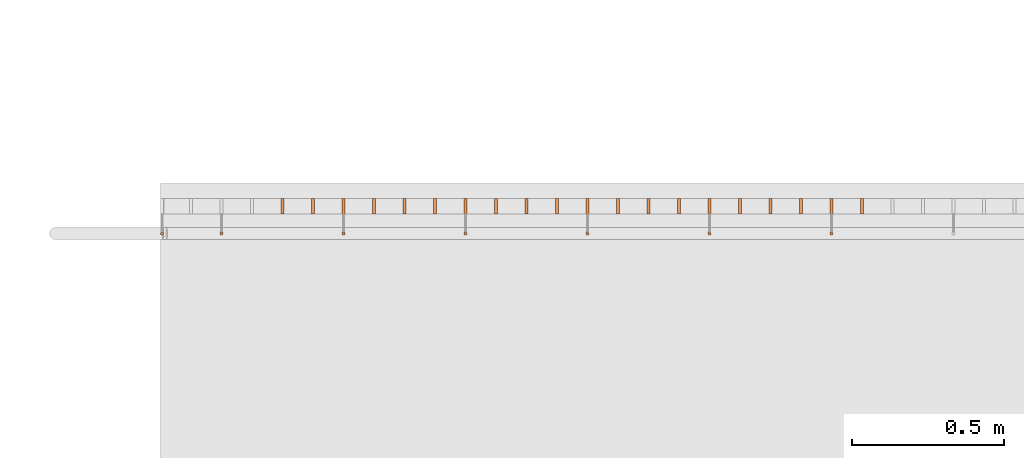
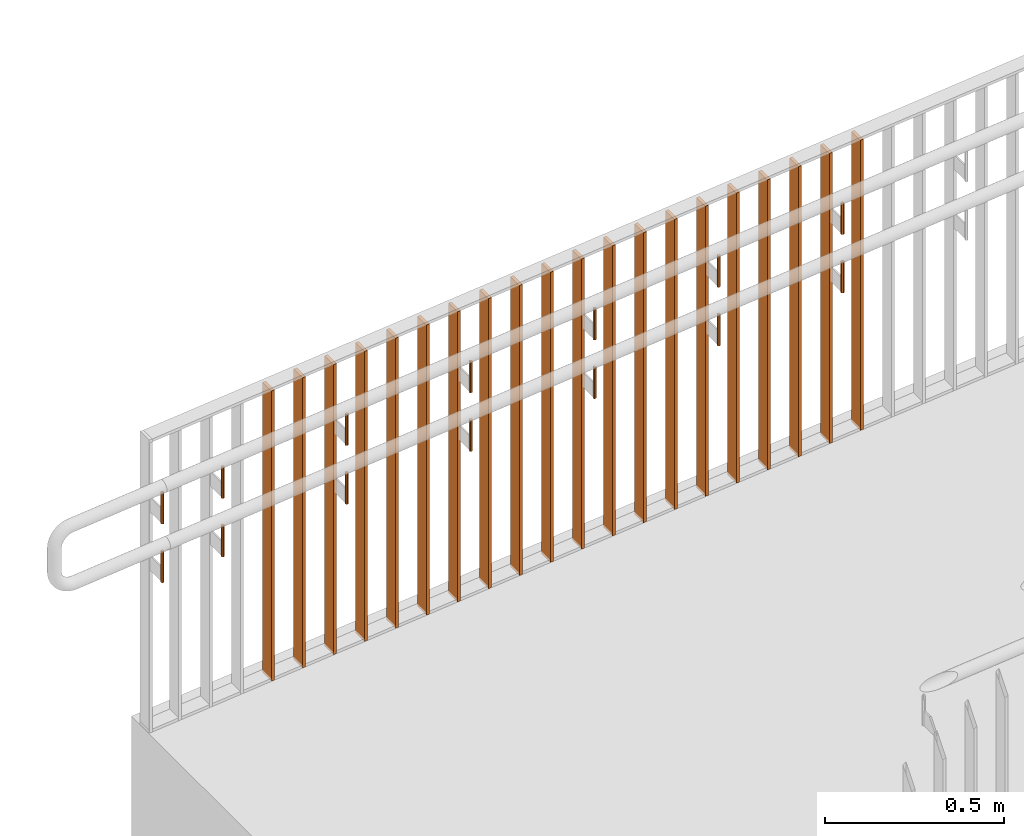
# One storey, part 371 of 418: 34 proxies, 1 element without a shape of its own.
"""IFC2X3 building model written with IfcOpenShell, lengths in millimetres."""

from ifc_helpers import new_model, entity, si_unit, converted_unit, derived_unit, money_unit, direction, frame, origin_with_axes, origin_2d_with_axis, place, context, subcontext, project, spatial, circle, extrude, faceted_brep, source, transform, mapped, material, type_object, element, aggregate, save


model = new_model("IFC2X3")

# Units and contexts
model_context = context("Model", 3, precision=0.01, world=origin_with_axes(), true_north=direction((0.0, 1.0)))
body_context = subcontext(model_context, "Body", "Model", "MODEL_VIEW")
ifc_project = project(units=[si_unit("LENGTHUNIT", "METRE", prefix="MILLI"), si_unit("AREAUNIT", "SQUARE_METRE"), si_unit("VOLUMEUNIT", "CUBIC_METRE"), converted_unit("PLANEANGLEUNIT", "DEGREE", entity("IfcPlaneAngleMeasure", 0.0174532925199), si_unit("PLANEANGLEUNIT", "RADIAN"), dimensions=[0, 0, 0, 0, 0, 0, 0]), si_unit("SOLIDANGLEUNIT", "STERADIAN"), money_unit("EUR"), converted_unit("TIMEUNIT", "Year", entity("IfcTimeMeasure", 31556926.0), si_unit("TIMEUNIT", "SECOND"), dimensions=[0, 0, 1, 0, 0, 0, 0]), si_unit("MASSUNIT", "GRAM", prefix="KILO"), si_unit("THERMODYNAMICTEMPERATUREUNIT", "DEGREE_CELSIUS"), si_unit("LUMINOUSINTENSITYUNIT", "LUMEN"), si_unit("ENERGYUNIT", "JOULE", prefix="MEGA"), derived_unit("THERMALCONDUCTANCEUNIT", [(si_unit("POWERUNIT", "WATT"), 1), (si_unit("LENGTHUNIT", "METRE"), -1), (si_unit("THERMODYNAMICTEMPERATUREUNIT", "KELVIN"), -1)]), derived_unit("SPECIFICHEATCAPACITYUNIT", [(si_unit("ENERGYUNIT", "JOULE"), 1), (si_unit("MASSUNIT", "GRAM", prefix="KILO"), -1), (si_unit("THERMODYNAMICTEMPERATUREUNIT", "KELVIN"), -1)]), derived_unit("MASSDENSITYUNIT", [(si_unit("MASSUNIT", "GRAM", prefix="KILO"), 1), (si_unit("VOLUMEUNIT", "CUBIC_METRE"), -1)])], contexts=[model_context])

# Site, building, storey
site_placement = place(None, origin_with_axes())
site = spatial("IfcSite", under=ifc_project, at=site_placement, Name="Paldiski mnt 245/1, Tallinn, Harjumaa", CompositionType="COMPLEX")
building_placement = place(site_placement, origin_with_axes())
building = spatial("IfcBuilding", under=site, at=building_placement, Name="RKAS Hoone üldnimetus (kasutust iseloomustav) -> IFC Project Manager -> SOLIBRI", CompositionType="ELEMENT")
storey_placement = place(building_placement, origin_with_axes())
storey = spatial("IfcBuildingStorey", under=building, at=storey_placement, Name="Esimene korrus", CompositionType="ELEMENT", Elevation=0.0)

# Proxies
ifc_material_1 = material(Name="ET-07_Teras - Roostevaba")
building_element_proxy_type_1 = type_object("IfcBuildingElementProxyType", Name="ET-07_Teras - Roostevaba D10", PredefinedType="NOTDEFINED")
for number, where, z_axis, x_axis, name in (
    (1, (-59323.3901807, 38424.7311931, -56.0616365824), (0.0, 0.0, 1.0), (0.0, 1.0, 0.0), "POST"),
    (2, (-59323.3901807, 38424.7311931, 143.938412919), (0.0, 0.0, 1.0), (0.0, 1.0, 0.0), "POST"),
    (3, (-58923.3901807, 38424.7311931, 183.938412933), (0.0, 0.0, 1.0), (0.0, 1.0, 0.0), "POST"),
    (4, (-57723.3394775, 38424.7311931, 103.943433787), (0.0, 0.0, 1.0), (0.0, 1.0, 0.0), "POST"),
    (5, (-57723.3394775, 38424.7311931, 303.943483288), (0.0, 0.0, 1.0), (0.0, 1.0, 0.0), "POST"),
    (6, (-58123.3901807, 38424.7311931, 263.938412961), (0.0, 0.0, 1.0), (0.0, 1.0, 0.0), "POST"),
    (7, (-58523.3394775, 38424.7311931, 23.9434337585), (0.0, 0.0, 1.0), (0.0, 1.0, 0.0), "POST"),
    (8, (-58123.3901807, 38424.7311931, 63.9383634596), (0.0, 0.0, 1.0), (0.0, 1.0, 0.0), "POST"),
    (9, (-58523.3394775, 38424.7311931, 223.94348326), (0.0, 0.0, 1.0), (0.0, 1.0, 0.0), "POST"),
    (10, (-58923.3901807, 38424.7311931, -16.0616365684), (0.0, 0.0, 1.0), (0.0, 1.0, 0.0), "POST"),
    (11, (-59723.4408838, 38424.7311931, -96.0667069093), (0.0, 0.0, 1.0), (0.0, 1.0, 0.0), "POST"),
    (12, (-59918.288767, 38424.7311931, 84.4485542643), (0.0, 0.0, 1.0), (0.0, 1.0, 0.0), "POST"),
    (13, (-59918.288767, 38424.7311931, -115.551495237), (0.0, 0.0, 1.0), (0.0, 1.0, 0.0), "POST"),
    (14, (-59723.4408838, 38424.7311931, 103.933342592), (0.0, 0.0, 1.0), (0.0, 1.0, 0.0), "POST"),
):
    element("IfcBuildingElementProxy", number, at=place(storey_placement, frame(where, z_axis=z_axis, x_axis=x_axis)), inside=storey, type_object=building_element_proxy_type_1, material=ifc_material_1, Name=name, context=body_context, shape_type="SweptSolid", body=[
        extrude(circle(Radius=5.0, at=origin_2d_with_axis()), frame((0.0, 0.0, 0.0), z_axis=(0.0, 0.0, -1.0), x_axis=(-1.0, 0.0, 0.0)), (0.0, 0.0, -1.0), 106.0),
    ])

# Railing, proxies
railing_type = type_object("IfcRailingType", Name="Railing Type", PredefinedType="NOTDEFINED")
railing_placement = place(storey_placement, frame((-53022.826789, 38539.7311919, -669.703891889), z_axis=(0.0, 0.0, 1.0), x_axis=(-0.773149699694, -0.634223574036, 0.0)))
railing = element("IfcRailing", 15, at=railing_placement, inside=storey, type_object=railing_type, Name="Trepipiire", PredefinedType="NOTDEFINED")
ifc_material_2 = material(Name="RAL7016")
building_element_proxy_type_2 = type_object("IfcBuildingElementProxyType", Name="IfcBuildingElementProxy", PredefinedType="NOTDEFINED")
shared_shape = source(origin_with_axes(), body_context, "Body", "Brep", [
    faceted_brep([(25.0, 5.0, -0.500145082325), (-25.0, 5.0, -0.500145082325), (-25.0, 5.0, 989.499867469), (25.0, 5.0, 989.499867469), (25.0, -5.0, 0.500145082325), (-25.0, -5.0, 0.500145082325), (-25.0, -5.0, 990.500157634), (25.0, -5.0, 990.500157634)], [[[0, 1, 2, 3]], [[0, 4, 5, 1]], [[1, 5, 6, 2]], [[3, 2, 6, 7]], [[4, 0, 3, 7]], [[5, 4, 7, 6]]]),
])
proxy_1_placement = place(railing_placement, frame((3572.70139098, -2898.39270107, 229.41848285), z_axis=(0.0, 0.0, 1.0), x_axis=(-0.773149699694, 0.634223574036, 0.0)))
proxy_1 = element("IfcBuildingElementProxy", 16, at=proxy_1_placement, type_object=building_element_proxy_type_2, material=ifc_material_2, Name="BALUSTER - 001", context=body_context, shape_type="MappedRepresentation", body=[
    mapped(shared_shape, transform((0.0, 0.0, 0.0), x_axis=(0.0, 1.0, 0.0), y_axis=(-1.0, 0.0, 0.0), z_axis=(0.0, 0.0, 1.0))),
])
proxy_2_placement = place(railing_placement, frame((3650.01636095, -2961.81505848, 219.415581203), z_axis=(0.0, 0.0, 1.0), x_axis=(-0.773149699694, 0.634223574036, 0.0)))
proxy_2 = element("IfcBuildingElementProxy", 17, at=proxy_2_placement, type_object=building_element_proxy_type_2, material=ifc_material_2, Name="BALUSTER - 001", context=body_context, shape_type="MappedRepresentation", body=[
    mapped(shared_shape, transform((0.0, 0.0, 0.0), x_axis=(0.0, 1.0, 0.0), y_axis=(-1.0, 0.0, 0.0), z_axis=(0.0, 0.0, 1.0))),
])
proxy_3_placement = place(railing_placement, frame((3727.33133092, -3025.23741588, 209.412679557), z_axis=(0.0, 0.0, 1.0), x_axis=(-0.773149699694, 0.634223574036, 0.0)))
proxy_3 = element("IfcBuildingElementProxy", 18, at=proxy_3_placement, type_object=building_element_proxy_type_2, material=ifc_material_2, Name="BALUSTER - 001", context=body_context, shape_type="MappedRepresentation", body=[
    mapped(shared_shape, transform((0.0, 0.0, 0.0), x_axis=(0.0, 1.0, 0.0), y_axis=(-1.0, 0.0, 0.0), z_axis=(0.0, 0.0, 1.0))),
])
proxy_4_placement = place(railing_placement, frame((3804.64630089, -3088.65977328, 199.40977791), z_axis=(0.0, 0.0, 1.0), x_axis=(-0.773149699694, 0.634223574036, 0.0)))
proxy_4 = element("IfcBuildingElementProxy", 19, at=proxy_4_placement, type_object=building_element_proxy_type_2, material=ifc_material_2, Name="BALUSTER - 001", context=body_context, shape_type="MappedRepresentation", body=[
    mapped(shared_shape, transform((0.0, 0.0, 0.0), x_axis=(0.0, 1.0, 0.0), y_axis=(-1.0, 0.0, 0.0), z_axis=(0.0, 0.0, 1.0))),
])
proxy_5_placement = place(railing_placement, frame((3881.96127086, -3152.08213069, 189.406876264), z_axis=(0.0, 0.0, 1.0), x_axis=(-0.773149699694, 0.634223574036, 0.0)))
proxy_5 = element("IfcBuildingElementProxy", 20, at=proxy_5_placement, type_object=building_element_proxy_type_2, material=ifc_material_2, Name="BALUSTER - 001", context=body_context, shape_type="MappedRepresentation", body=[
    mapped(shared_shape, transform((0.0, 0.0, 0.0), x_axis=(0.0, 1.0, 0.0), y_axis=(-1.0, 0.0, 0.0), z_axis=(0.0, 0.0, 1.0))),
])
proxy_6_placement = place(railing_placement, frame((3959.27624083, -3215.50448809, 179.403974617), z_axis=(0.0, 0.0, 1.0), x_axis=(-0.773149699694, 0.634223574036, 0.0)))
proxy_6 = element("IfcBuildingElementProxy", 21, at=proxy_6_placement, type_object=building_element_proxy_type_2, material=ifc_material_2, Name="BALUSTER - 001", context=body_context, shape_type="MappedRepresentation", body=[
    mapped(shared_shape, transform((0.0, 0.0, 0.0), x_axis=(0.0, 1.0, 0.0), y_axis=(-1.0, 0.0, 0.0), z_axis=(0.0, 0.0, 1.0))),
])
proxy_7_placement = place(railing_placement, frame((4036.5912108, -3278.92684549, 169.401072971), z_axis=(0.0, 0.0, 1.0), x_axis=(-0.773149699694, 0.634223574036, 0.0)))
proxy_7 = element("IfcBuildingElementProxy", 22, at=proxy_7_placement, type_object=building_element_proxy_type_2, material=ifc_material_2, Name="BALUSTER - 001", context=body_context, shape_type="MappedRepresentation", body=[
    mapped(shared_shape, transform((0.0, 0.0, 0.0), x_axis=(0.0, 1.0, 0.0), y_axis=(-1.0, 0.0, 0.0), z_axis=(0.0, 0.0, 1.0))),
])
proxy_8_placement = place(railing_placement, frame((4113.90618077, -3342.3492029, 159.398171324), z_axis=(0.0, 0.0, 1.0), x_axis=(-0.773149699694, 0.634223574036, 0.0)))
proxy_8 = element("IfcBuildingElementProxy", 23, at=proxy_8_placement, type_object=building_element_proxy_type_2, material=ifc_material_2, Name="BALUSTER - 001", context=body_context, shape_type="MappedRepresentation", body=[
    mapped(shared_shape, transform((0.0, 0.0, 0.0), x_axis=(0.0, 1.0, 0.0), y_axis=(-1.0, 0.0, 0.0), z_axis=(0.0, 0.0, 1.0))),
])
proxy_9_placement = place(railing_placement, frame((4191.22115074, -3405.7715603, 149.395269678), z_axis=(0.0, 0.0, 1.0), x_axis=(-0.773149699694, 0.634223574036, 0.0)))
proxy_9 = element("IfcBuildingElementProxy", 24, at=proxy_9_placement, type_object=building_element_proxy_type_2, material=ifc_material_2, Name="BALUSTER - 001", context=body_context, shape_type="MappedRepresentation", body=[
    mapped(shared_shape, transform((0.0, 0.0, 0.0), x_axis=(0.0, 1.0, 0.0), y_axis=(-1.0, 0.0, 0.0), z_axis=(0.0, 0.0, 1.0))),
])
proxy_10_placement = place(railing_placement, frame((4268.53612071, -3469.1939177, 139.392368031), z_axis=(0.0, 0.0, 1.0), x_axis=(-0.773149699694, 0.634223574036, 0.0)))
proxy_10 = element("IfcBuildingElementProxy", 25, at=proxy_10_placement, type_object=building_element_proxy_type_2, material=ifc_material_2, Name="BALUSTER - 001", context=body_context, shape_type="MappedRepresentation", body=[
    mapped(shared_shape, transform((0.0, 0.0, 0.0), x_axis=(0.0, 1.0, 0.0), y_axis=(-1.0, 0.0, 0.0), z_axis=(0.0, 0.0, 1.0))),
])
proxy_11_placement = place(railing_placement, frame((4345.85109067, -3532.61627511, 129.389466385), z_axis=(0.0, 0.0, 1.0), x_axis=(-0.773149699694, 0.634223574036, 0.0)))
proxy_11 = element("IfcBuildingElementProxy", 26, at=proxy_11_placement, type_object=building_element_proxy_type_2, material=ifc_material_2, Name="BALUSTER - 001", context=body_context, shape_type="MappedRepresentation", body=[
    mapped(shared_shape, transform((0.0, 0.0, 0.0), x_axis=(0.0, 1.0, 0.0), y_axis=(-1.0, 0.0, 0.0), z_axis=(0.0, 0.0, 1.0))),
])
proxy_12_placement = place(railing_placement, frame((4423.16606064, -3596.03863251, 119.386564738), z_axis=(0.0, 0.0, 1.0), x_axis=(-0.773149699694, 0.634223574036, 0.0)))
proxy_12 = element("IfcBuildingElementProxy", 27, at=proxy_12_placement, type_object=building_element_proxy_type_2, material=ifc_material_2, Name="BALUSTER - 001", context=body_context, shape_type="MappedRepresentation", body=[
    mapped(shared_shape, transform((0.0, 0.0, 0.0), x_axis=(0.0, 1.0, 0.0), y_axis=(-1.0, 0.0, 0.0), z_axis=(0.0, 0.0, 1.0))),
])
proxy_13_placement = place(railing_placement, frame((4500.48103061, -3659.46098992, 109.383663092), z_axis=(0.0, 0.0, 1.0), x_axis=(-0.773149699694, 0.634223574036, 0.0)))
proxy_13 = element("IfcBuildingElementProxy", 28, at=proxy_13_placement, type_object=building_element_proxy_type_2, material=ifc_material_2, Name="BALUSTER - 001", context=body_context, shape_type="MappedRepresentation", body=[
    mapped(shared_shape, transform((0.0, 0.0, 0.0), x_axis=(0.0, 1.0, 0.0), y_axis=(-1.0, 0.0, 0.0), z_axis=(0.0, 0.0, 1.0))),
])
proxy_14_placement = place(railing_placement, frame((4577.79600058, -3722.88334732, 99.3807614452), z_axis=(0.0, 0.0, 1.0), x_axis=(-0.773149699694, 0.634223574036, 0.0)))
proxy_14 = element("IfcBuildingElementProxy", 29, at=proxy_14_placement, type_object=building_element_proxy_type_2, material=ifc_material_2, Name="BALUSTER - 001", context=body_context, shape_type="MappedRepresentation", body=[
    mapped(shared_shape, transform((0.0, 0.0, 0.0), x_axis=(0.0, 1.0, 0.0), y_axis=(-1.0, 0.0, 0.0), z_axis=(0.0, 0.0, 1.0))),
])
proxy_15_placement = place(railing_placement, frame((4655.11097055, -3786.30570472, 89.3778597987), z_axis=(0.0, 0.0, 1.0), x_axis=(-0.773149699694, 0.634223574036, 0.0)))
proxy_15 = element("IfcBuildingElementProxy", 30, at=proxy_15_placement, type_object=building_element_proxy_type_2, material=ifc_material_2, Name="BALUSTER - 001", context=body_context, shape_type="MappedRepresentation", body=[
    mapped(shared_shape, transform((0.0, 0.0, 0.0), x_axis=(0.0, 1.0, 0.0), y_axis=(-1.0, 0.0, 0.0), z_axis=(0.0, 0.0, 1.0))),
])
proxy_16_placement = place(railing_placement, frame((4732.42594052, -3849.72806213, 79.3749581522), z_axis=(0.0, 0.0, 1.0), x_axis=(-0.773149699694, 0.634223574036, 0.0)))
proxy_16 = element("IfcBuildingElementProxy", 31, at=proxy_16_placement, type_object=building_element_proxy_type_2, material=ifc_material_2, Name="BALUSTER - 001", context=body_context, shape_type="MappedRepresentation", body=[
    mapped(shared_shape, transform((0.0, 0.0, 0.0), x_axis=(0.0, 1.0, 0.0), y_axis=(-1.0, 0.0, 0.0), z_axis=(0.0, 0.0, 1.0))),
])
proxy_17_placement = place(railing_placement, frame((4809.74091049, -3913.15041953, 69.3720565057), z_axis=(0.0, 0.0, 1.0), x_axis=(-0.773149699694, 0.634223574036, 0.0)))
proxy_17 = element("IfcBuildingElementProxy", 32, at=proxy_17_placement, type_object=building_element_proxy_type_2, material=ifc_material_2, Name="BALUSTER - 001", context=body_context, shape_type="MappedRepresentation", body=[
    mapped(shared_shape, transform((0.0, 0.0, 0.0), x_axis=(0.0, 1.0, 0.0), y_axis=(-1.0, 0.0, 0.0), z_axis=(0.0, 0.0, 1.0))),
])
proxy_18_placement = place(railing_placement, frame((4887.05588046, -3976.57277693, 59.3691548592), z_axis=(0.0, 0.0, 1.0), x_axis=(-0.773149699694, 0.634223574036, 0.0)))
proxy_18 = element("IfcBuildingElementProxy", 33, at=proxy_18_placement, type_object=building_element_proxy_type_2, material=ifc_material_2, Name="BALUSTER - 001", context=body_context, shape_type="MappedRepresentation", body=[
    mapped(shared_shape, transform((0.0, 0.0, 0.0), x_axis=(0.0, 1.0, 0.0), y_axis=(-1.0, 0.0, 0.0), z_axis=(0.0, 0.0, 1.0))),
])
proxy_19_placement = place(railing_placement, frame((4964.37085043, -4039.99513434, 49.3662532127), z_axis=(0.0, 0.0, 1.0), x_axis=(-0.773149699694, 0.634223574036, 0.0)))
proxy_19 = element("IfcBuildingElementProxy", 34, at=proxy_19_placement, type_object=building_element_proxy_type_2, material=ifc_material_2, Name="BALUSTER - 001", context=body_context, shape_type="MappedRepresentation", body=[
    mapped(shared_shape, transform((0.0, 0.0, 0.0), x_axis=(0.0, 1.0, 0.0), y_axis=(-1.0, 0.0, 0.0), z_axis=(0.0, 0.0, 1.0))),
])
proxy_20_placement = place(railing_placement, frame((5041.6858204, -4103.41749174, 39.3633515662), z_axis=(0.0, 0.0, 1.0), x_axis=(-0.773149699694, 0.634223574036, 0.0)))
proxy_20 = element("IfcBuildingElementProxy", 35, at=proxy_20_placement, type_object=building_element_proxy_type_2, material=ifc_material_2, Name="BALUSTER - 001", context=body_context, shape_type="MappedRepresentation", body=[
    mapped(shared_shape, transform((0.0, 0.0, 0.0), x_axis=(0.0, 1.0, 0.0), y_axis=(-1.0, 0.0, 0.0), z_axis=(0.0, 0.0, 1.0))),
])
aggregate(railing, [proxy_1, proxy_2, proxy_3, proxy_4, proxy_5, proxy_6, proxy_7, proxy_8, proxy_9, proxy_10, proxy_11, proxy_12, proxy_13, proxy_14, proxy_15, proxy_16, proxy_17, proxy_18, proxy_19, proxy_20])

save(model, "model.ifc")
